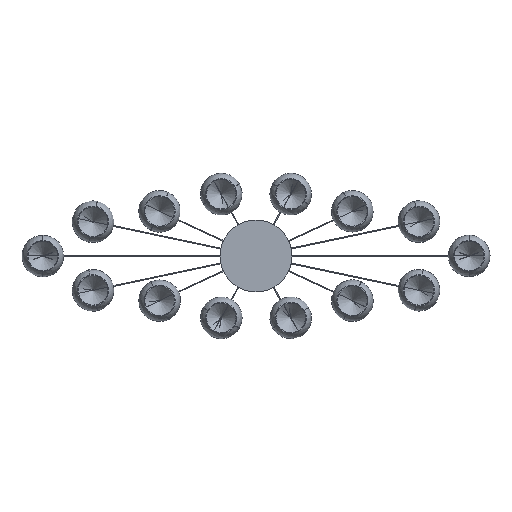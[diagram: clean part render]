
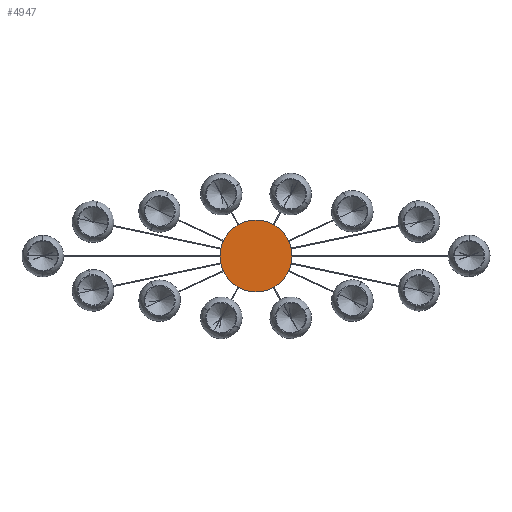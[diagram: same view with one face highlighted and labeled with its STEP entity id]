
A CAD part, front view. The second image highlights one B-rep face of the part: STEP entity #4947.
In plain terms, the highlighted planar face has unit normal (0, -1, 0).
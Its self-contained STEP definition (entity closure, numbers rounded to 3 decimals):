
#91 = EDGE_CURVE ( 'NONE', #8552, #8160, #7528, .T. ) ;
#518 = CARTESIAN_POINT ( 'NONE',  ( 0., 0., -155. ) ) ;
#804 = DIRECTION ( 'NONE',  ( 0., 1., 0. ) ) ;
#1072 = AXIS2_PLACEMENT_3D ( 'NONE', #7819, #4203, #5683 ) ;
#1940 = ORIENTED_EDGE ( 'NONE', *, *, #91, .F. ) ;
#2161 = AXIS2_PLACEMENT_3D ( 'NONE', #2184, #2766, #5831 ) ;
#2184 = CARTESIAN_POINT ( 'NONE',  ( 0., 0., 0. ) ) ;
#2295 = EDGE_CURVE ( 'NONE', #8160, #8552, #5841, .T. ) ;
#2766 = DIRECTION ( 'NONE',  ( 0., 1., 0. ) ) ;
#3654 = PLANE ( 'NONE',  #5629 ) ;
#4203 = DIRECTION ( 'NONE',  ( 0., 1., 0. ) ) ;
#4947 = ADVANCED_FACE ( 'NONE', ( #8618 ), #3654, .F. ) ;
#5629 = AXIS2_PLACEMENT_3D ( 'NONE', #7448, #804, #8856 ) ;
#5683 = DIRECTION ( 'NONE',  ( 0., 0., 1. ) ) ;
#5831 = DIRECTION ( 'NONE',  ( 0., 0., 1. ) ) ;
#5841 = CIRCLE ( 'NONE', #2161, 155. ) ;
#7448 = CARTESIAN_POINT ( 'NONE',  ( 0., 0., 0. ) ) ;
#7528 = CIRCLE ( 'NONE', #1072, 155. ) ;
#7819 = CARTESIAN_POINT ( 'NONE',  ( 0., 0., 0. ) ) ;
#7861 = CARTESIAN_POINT ( 'NONE',  ( 0., 0., 155. ) ) ;
#8160 = VERTEX_POINT ( 'NONE', #7861 ) ;
#8448 = EDGE_LOOP ( 'NONE', ( #1940, #9207 ) ) ;
#8552 = VERTEX_POINT ( 'NONE', #518 ) ;
#8618 = FACE_OUTER_BOUND ( 'NONE', #8448, .T. ) ;
#8856 = DIRECTION ( 'NONE',  ( 0., 0., 1. ) ) ;
#9207 = ORIENTED_EDGE ( 'NONE', *, *, #2295, .F. ) ;
